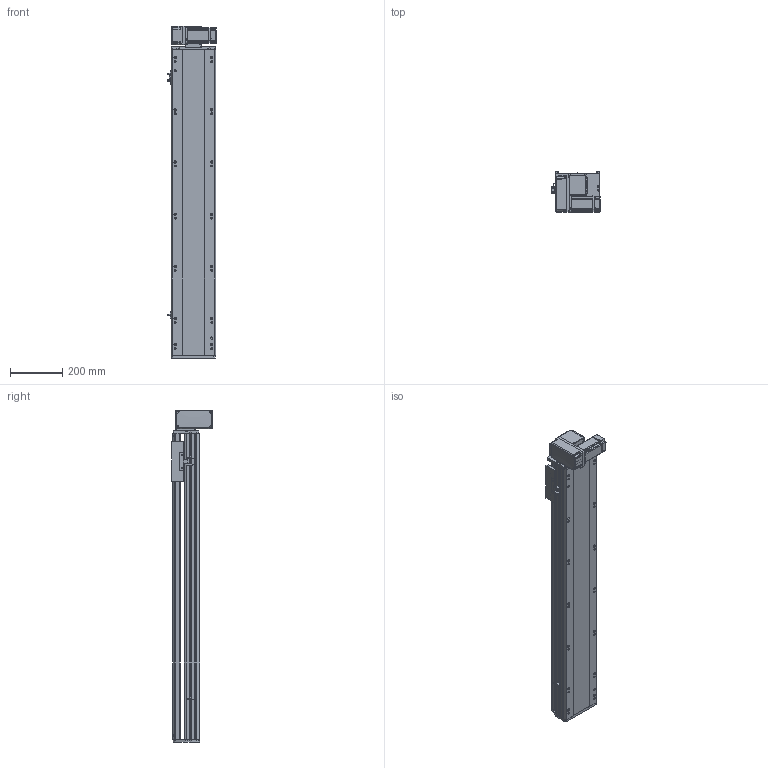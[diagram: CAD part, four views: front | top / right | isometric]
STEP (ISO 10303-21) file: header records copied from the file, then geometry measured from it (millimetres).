
FILE_DESCRIPTION (( 'STEP AP214' ), '1' );
FILE_NAME ('RTB17S-XX-900-LM-M40-C4.STEP', '2025-12-11T06:25:48', ( '' ), ( '' ), 'SwSTEP 2.0', 'SolidWorks 2018', '' );
FILE_SCHEMA (( 'AUTOMOTIVE_DESIGN' ));
Length unit declared in the file: millimetre
Products named in the file (14): RTB17S-LM-々湍釱蚾饜-400W^RTB17S-XX-XX-LM-M40-C4; RTB17S-L-007奻裔^RTB17S-XX-XX-LM-M40-C4; RTB17-R-011菁釱^RTB17S-XX-XX-LM-M40-C4; RTB14-L-008-M20--萇儂啣^RTB17S-LM-々湍釱蚾饜-400W_RTB17S-XX-XX-LM-M40-C4; RTB14-L-005P--轴承塑胶压盖^RTB17S-LM-皮带座装配-400W_RTB17S-XX-XX-LM-M40-C4; OMRON EE-SX672 传感器^RTB17S-XX-XX-LM-M40-C4; 400W侜督萇儂^RTB17S-XX-XX-LM-M40-C4; RTB17S-XX-900-LM-M40-C4; RTB14-L-017P^RTB17S-LM-々湍釱蚾饜-400W_RTB17S-XX-XX-LM-M40-C4; RTB17S-L-004佪裝蹟譫蟀諉釱^RTB17S-XX-XX-LM-M40-C4; RTB14-L-018P^RTB17S-LM-々湍釱蚾饜-400W_RTB17S-XX-XX-LM-M40-C4; RTB17S-L-001耜醱啣^RTB17S-XX-XX-LM-M40-C4; RMP17S-L-014-T20--々湍釱^RTB17S-LM-々湍釱蚾饜-400W_RTB17S-XX-XX-LM-M40-C4; RTH13-BL-012覜茼え俋离^RTB17S-XX-XX-LM-M40-C4
Assembly tree (16 placements, depth 3):
  RTB17S-XX-900-LM-M40-C4
    RTB17-R-011菁釱^RTB17S-XX-XX-LM-M40-C4
    RTB17S-L-007奻裔^RTB17S-XX-XX-LM-M40-C4
    OMRON EE-SX672 传感器^RTB17S-XX-XX-LM-M40-C4  x3
    RTH13-BL-012覜茼え俋离^RTB17S-XX-XX-LM-M40-C4
    RTB17S-L-001耜醱啣^RTB17S-XX-XX-LM-M40-C4
    400W侜督萇儂^RTB17S-XX-XX-LM-M40-C4
    RTB17S-L-004佪裝蹟譫蟀諉釱^RTB17S-XX-XX-LM-M40-C4
    RTB17S-LM-々湍釱蚾饜-400W^RTB17S-XX-XX-LM-M40-C4
      RMP17S-L-014-T20--々湍釱^RTB17S-LM-々湍釱蚾饜-400W_RTB17S-XX-XX-LM-M40-C4
      RTB14-L-005P--轴承塑胶压盖^RTB17S-LM-皮带座装配-400W_RTB17S-XX-XX-LM-M40-C4
      RTB14-L-008-M20--萇儂啣^RTB17S-LM-々湍釱蚾饜-400W_RTB17S-XX-XX-LM-M40-C4
      RTB14-L-017P^RTB17S-LM-々湍釱蚾饜-400W_RTB17S-XX-XX-LM-M40-C4  x2
      RTB14-L-018P^RTB17S-LM-々湍釱蚾饜-400W_RTB17S-XX-XX-LM-M40-C4
Bounding box: 186 x 156.5 x 1272.5 mm (x, y, z)
Volume: 11556255 mm3; surface area: 1410035 mm2
Topology: 15 solids, 15 shells, 2205 faces, 6087 edges, 3969 vertices
Faces by surface type: plane 1068, cylinder 689, bspline 301, cone 139, torus 8
Entity records: 62633 total; most frequent: CARTESIAN_POINT 17492, ORIENTED_EDGE 9018, DIRECTION 8396, EDGE_CURVE 4509, VERTEX_POINT 2957, AXIS2_PLACEMENT_3D 2887, LINE 2622, VECTOR 2622
